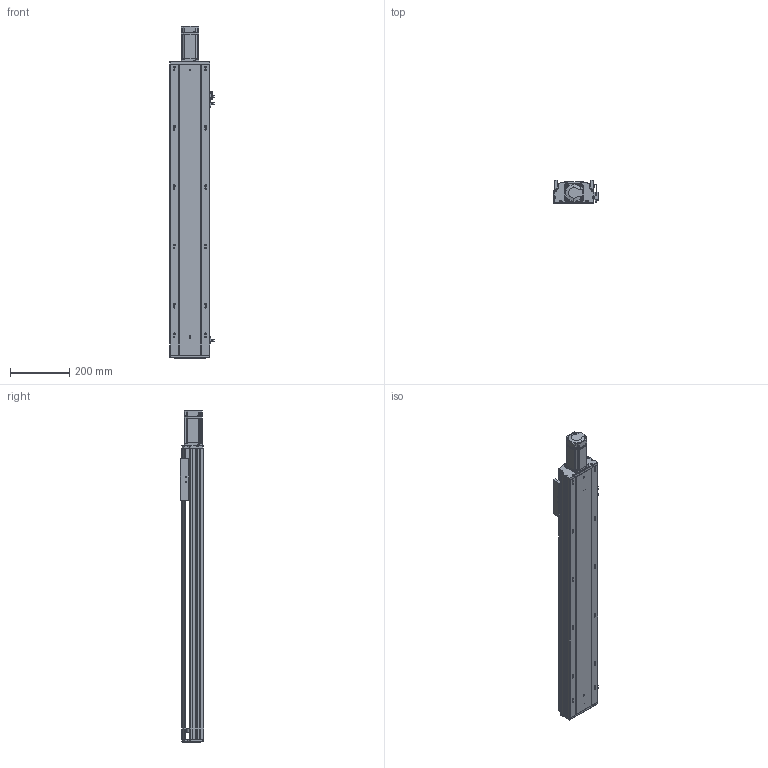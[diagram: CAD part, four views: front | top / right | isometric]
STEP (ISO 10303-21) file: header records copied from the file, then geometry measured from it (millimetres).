
FILE_DESCRIPTION (( 'STEP AP203' ), '1' );
FILE_NAME ('RY140Q-L2010-700-MK.SLDASM_0750.step', '2021-05-27T03:22:19', ( '盈信电脑' ), ( '东莞市道滘镇水果街19号' ), 'SwSTEP 2.0', 'SolidWorks 2016', '' );
FILE_SCHEMA (( 'CONFIG_CONTROL_DESIGN' ));
Length unit declared in the file: millimetre
Products named in the file (14): 15; 侂狟400W侜督萇儂; RY140Q萇儂傷盓傅釱FK12(80.5酗M5); RY140Q-700-MK倰第奻裔啣_0750; RY140ヶ裔啣; 鞠褒坶踡蹟譫BK12 ; RY140Q-L2010-700-MK.SLDASM_0750; RY140Q-700-MK倰第菁釱_0750; 覜茼ん672; RY140綴裔啣; RY120外置感应片(140共用）; 滅袉蝶18-15; RY140Q臏賑輸(20佪裝-J); 滅袉蝶18-10
Assembly tree (16 placements, depth 3):
  RY140Q-L2010-700-MK.SLDASM_0750
    RY140Q-700-MK倰第菁釱_0750
    RY140Q臏賑輸(20佪裝-J)
    RY140Q-700-MK倰第奻裔啣_0750
    RY140ヶ裔啣
    侂狟400W侜督萇儂
      15
    鞠褒坶踡蹟譫BK12 
    RY140綴裔啣
    覜茼ん672  x3
    RY120外置感应片(140共用）
    RY140Q萇儂傷盓傅釱FK12(80.5酗M5)
    滅袉蝶18-10
    滅袉蝶18-15  x2
Bounding box: 148.7 x 78 x 1119.5 mm (x, y, z)
Volume: 3245202.9 mm3; surface area: 1162055.6 mm2
Topology: 15 solids, 15 shells, 2091 faces, 5770 edges, 3695 vertices
Faces by surface type: plane 1086, cylinder 724, cone 196, bspline 85
Entity records: 69113 total; most frequent: CARTESIAN_POINT 16588, ORIENTED_EDGE 10840, DIRECTION 10302, EDGE_CURVE 5420, VERTEX_POINT 3555, VECTOR 3490, LINE 3490, AXIS2_PLACEMENT_3D 3406
